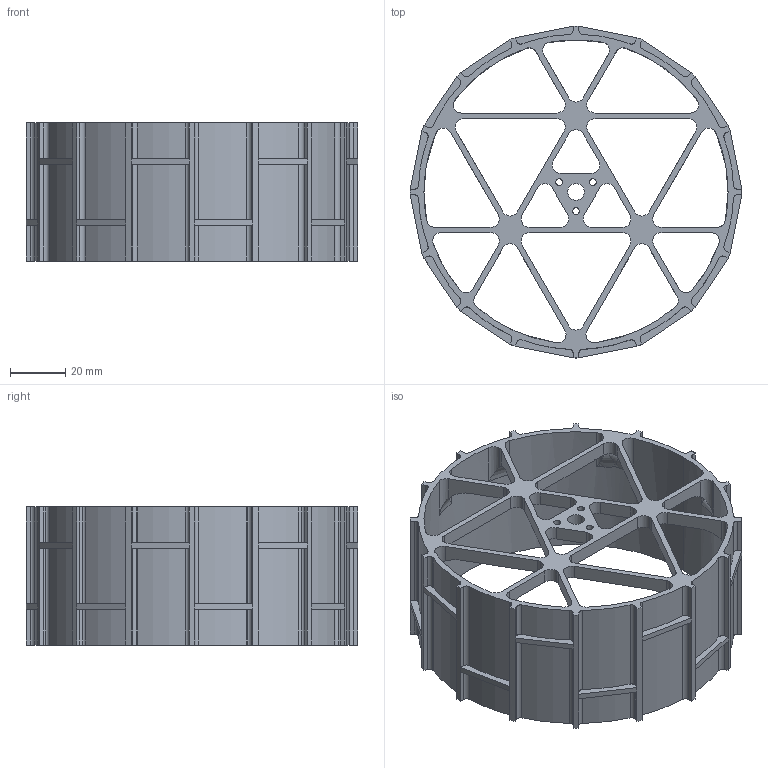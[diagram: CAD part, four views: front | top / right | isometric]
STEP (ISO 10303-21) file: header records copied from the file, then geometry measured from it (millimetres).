
FILE_DESCRIPTION (( 'STEP AP214' ), '1' );
FILE_NAME ('Pikihammastega.STEP', '2025-05-19T12:11:39', ( '' ), ( '' ), 'SwSTEP 2.0', 'SolidWorks 2024', '' );
FILE_SCHEMA (( 'AUTOMOTIVE_DESIGN' ));
Length unit declared in the file: millimetre
Products named in the file (1): Pikihammastega
Bounding box: 120 x 120 x 50 mm (x, y, z)
Volume: 51210.2 mm3; surface area: 50659.2 mm2
Topology: 1 solids, 1 shells, 372 faces, 1067 edges, 683 vertices
Faces by surface type: cylinder 194, plane 151, torus 18, bspline 9
Entity records: 15171 total; most frequent: CARTESIAN_POINT 5181, DIRECTION 2129, ORIENTED_EDGE 2128, EDGE_CURVE 1064, AXIS2_PLACEMENT_3D 770, VERTEX_POINT 683, VECTOR 589, LINE 589
